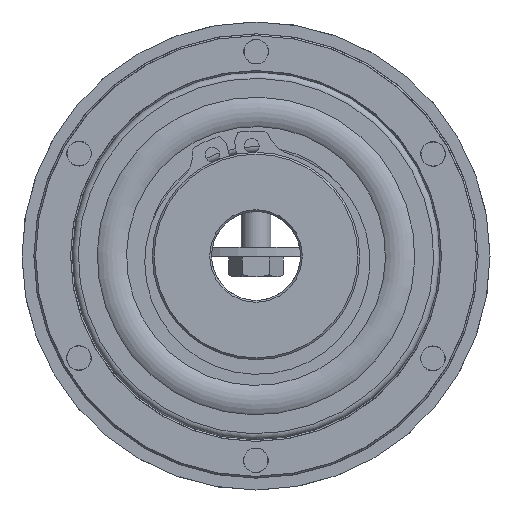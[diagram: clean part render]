
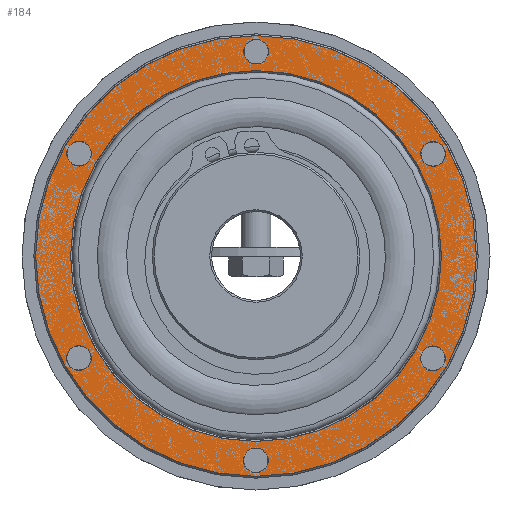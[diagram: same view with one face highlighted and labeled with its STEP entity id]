
A CAD part, left-side view. The second image highlights one B-rep face of the part: STEP entity #184.
In plain terms, the highlighted planar face has unit normal (-1, 0, 0).
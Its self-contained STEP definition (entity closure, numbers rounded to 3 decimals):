
#184 = ADVANCED_FACE( '', ( #326, #327, #328, #329, #330, #331, #332, #333 ), #334, .F. );
#326 = FACE_OUTER_BOUND( '', #488, .T. );
#327 = FACE_BOUND( '', #489, .T. );
#328 = FACE_BOUND( '', #490, .T. );
#329 = FACE_BOUND( '', #491, .T. );
#330 = FACE_BOUND( '', #492, .T. );
#331 = FACE_BOUND( '', #493, .T. );
#332 = FACE_BOUND( '', #494, .T. );
#333 = FACE_BOUND( '', #495, .T. );
#334 = PLANE( '', #496 );
#488 = EDGE_LOOP( '', ( #810 ) );
#489 = EDGE_LOOP( '', ( #811 ) );
#490 = EDGE_LOOP( '', ( #812 ) );
#491 = EDGE_LOOP( '', ( #813 ) );
#492 = EDGE_LOOP( '', ( #814 ) );
#493 = EDGE_LOOP( '', ( #815 ) );
#494 = EDGE_LOOP( '', ( #816 ) );
#495 = EDGE_LOOP( '', ( #817 ) );
#496 = AXIS2_PLACEMENT_3D( '', #818, #819, #820 );
#810 = ORIENTED_EDGE( '', *, *, #1278, .T. );
#811 = ORIENTED_EDGE( '', *, *, #1251, .T. );
#812 = ORIENTED_EDGE( '', *, *, #1271, .T. );
#813 = ORIENTED_EDGE( '', *, *, #1259, .T. );
#814 = ORIENTED_EDGE( '', *, *, #1273, .T. );
#815 = ORIENTED_EDGE( '', *, *, #1254, .T. );
#816 = ORIENTED_EDGE( '', *, *, #1237, .T. );
#817 = ORIENTED_EDGE( '', *, *, #1262, .T. );
#818 = CARTESIAN_POINT( '', ( -18.75, 37.5, 0. ) );
#819 = DIRECTION( '', ( 1., 0., 0. ) );
#820 = DIRECTION( '', ( 0., 1., 0. ) );
#1237 = EDGE_CURVE( '', #1680, #1680, #1681, .T. );
#1251 = EDGE_CURVE( '', #1702, #1702, #1703, .T. );
#1254 = EDGE_CURVE( '', #1707, #1707, #1708, .T. );
#1259 = EDGE_CURVE( '', #1715, #1715, #1716, .T. );
#1262 = EDGE_CURVE( '', #1720, #1720, #1721, .T. );
#1271 = EDGE_CURVE( '', #1733, #1733, #1734, .T. );
#1273 = EDGE_CURVE( '', #1736, #1736, #1737, .T. );
#1278 = EDGE_CURVE( '', #1743, #1743, #1744, .T. );
#1680 = VERTEX_POINT( '', #2638 );
#1681 = CIRCLE( '', #2639, 2.067 );
#1702 = VERTEX_POINT( '', #2660 );
#1703 = CIRCLE( '', #2661, 31.3 );
#1707 = VERTEX_POINT( '', #2665 );
#1708 = CIRCLE( '', #2666, 2.067 );
#1715 = VERTEX_POINT( '', #2673 );
#1716 = CIRCLE( '', #2674, 2.067 );
#1720 = VERTEX_POINT( '', #2678 );
#1721 = CIRCLE( '', #2679, 2.067 );
#1733 = VERTEX_POINT( '', #2691 );
#1734 = CIRCLE( '', #2692, 2.067 );
#1736 = VERTEX_POINT( '', #2694 );
#1737 = CIRCLE( '', #2695, 2.067 );
#1743 = VERTEX_POINT( '', #2701 );
#1744 = CIRCLE( '', #2702, 37.2 );
#2638 = CARTESIAN_POINT( '', ( -18.75, -31.668, 18.284 ) );
#2639 = AXIS2_PLACEMENT_3D( '', #2936, #2937, #2938 );
#2660 = CARTESIAN_POINT( '', ( -18.75, 0., -31.3 ) );
#2661 = AXIS2_PLACEMENT_3D( '', #2960, #2961, #2962 );
#2665 = CARTESIAN_POINT( '', ( -18.75, -31.668, -18.284 ) );
#2666 = AXIS2_PLACEMENT_3D( '', #2966, #2967, #2968 );
#2673 = CARTESIAN_POINT( '', ( -18.75, 31.668, -18.284 ) );
#2674 = AXIS2_PLACEMENT_3D( '', #2975, #2976, #2977 );
#2678 = CARTESIAN_POINT( '', ( -18.75, 0., 36.567 ) );
#2679 = AXIS2_PLACEMENT_3D( '', #2981, #2982, #2983 );
#2691 = CARTESIAN_POINT( '', ( -18.75, 31.668, 18.284 ) );
#2692 = AXIS2_PLACEMENT_3D( '', #2993, #2994, #2995 );
#2694 = CARTESIAN_POINT( '', ( -18.75, 0., -36.567 ) );
#2695 = AXIS2_PLACEMENT_3D( '', #2996, #2997, #2998 );
#2701 = CARTESIAN_POINT( '', ( -18.75, 0., -37.2 ) );
#2702 = AXIS2_PLACEMENT_3D( '', #3002, #3003, #3004 );
#2936 = CARTESIAN_POINT( '', ( -18.75, -29.878, 17.25 ) );
#2937 = DIRECTION( '', ( 1., 0., 0. ) );
#2938 = DIRECTION( '', ( 0., -0.866, 0.5 ) );
#2960 = CARTESIAN_POINT( '', ( -18.75, 0., 0. ) );
#2961 = DIRECTION( '', ( 1., 0., 0. ) );
#2962 = DIRECTION( '', ( 0., 0., -1. ) );
#2966 = CARTESIAN_POINT( '', ( -18.75, -29.878, -17.25 ) );
#2967 = DIRECTION( '', ( 1., 0., 0. ) );
#2968 = DIRECTION( '', ( 0., -0.866, -0.5 ) );
#2975 = CARTESIAN_POINT( '', ( -18.75, 29.878, -17.25 ) );
#2976 = DIRECTION( '', ( 1., 0., 0. ) );
#2977 = DIRECTION( '', ( 0., 0.866, -0.5 ) );
#2981 = CARTESIAN_POINT( '', ( -18.75, 0., 34.5 ) );
#2982 = DIRECTION( '', ( 1., 0., 0. ) );
#2983 = DIRECTION( '', ( 0., 0., 1. ) );
#2993 = CARTESIAN_POINT( '', ( -18.75, 29.878, 17.25 ) );
#2994 = DIRECTION( '', ( 1., 0., 0. ) );
#2995 = DIRECTION( '', ( 0., 0.866, 0.5 ) );
#2996 = CARTESIAN_POINT( '', ( -18.75, 0., -34.5 ) );
#2997 = DIRECTION( '', ( 1., 0., 0. ) );
#2998 = DIRECTION( '', ( 0., 0., -1. ) );
#3002 = CARTESIAN_POINT( '', ( -18.75, 0., 0. ) );
#3003 = DIRECTION( '', ( -1., 0., 0. ) );
#3004 = DIRECTION( '', ( 0., 0., -1. ) );
